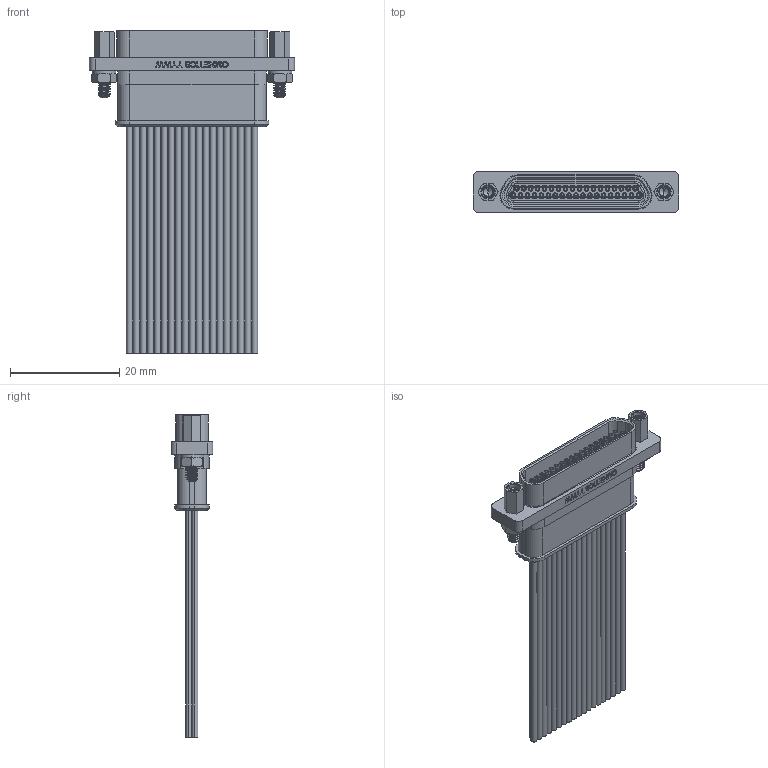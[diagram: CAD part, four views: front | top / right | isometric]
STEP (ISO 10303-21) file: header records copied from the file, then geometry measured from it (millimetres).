
FILE_DESCRIPTION (( 'STEP AP214' ), '1' );
FILE_NAME ('A99279-037 REV A.STEP', '2016-12-29T13:31:52', ( '' ), ( '' ), 'SwSTEP 2.0', 'SolidWorks 2016', '' );
FILE_SCHEMA (( 'AUTOMOTIVE_DESIGN' ));
Length unit declared in the file: inch
Products named in the file (1): A99279-037 REV A
Bounding box: 37.47 x 7.63 x 58.88 mm (x, y, z)
Volume: 3472 mm3; surface area: 10617.6 mm2
Topology: 1 solids, 76 shells, 1729 faces, 3910 edges, 2496 vertices
Faces by surface type: cylinder 820, plane 532, torus 161, cone 144, bspline 72
Entity records: 60251 total; most frequent: CARTESIAN_POINT 20029, DIRECTION 8811, ORIENTED_EDGE 7800, EDGE_CURVE 3900, AXIS2_PLACEMENT_3D 3641, VERTEX_POINT 2496, EDGE_LOOP 2060, CIRCLE 1983
